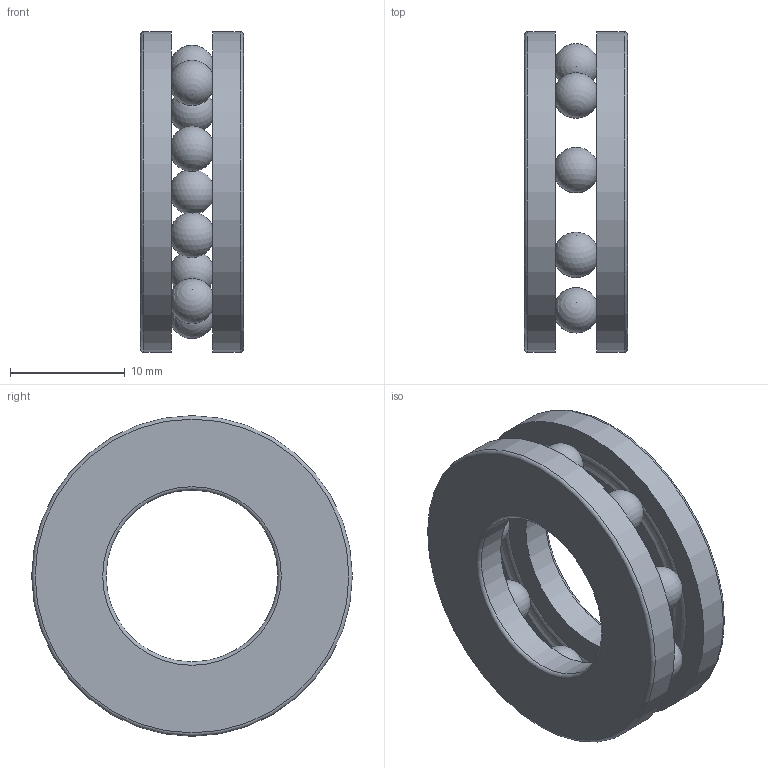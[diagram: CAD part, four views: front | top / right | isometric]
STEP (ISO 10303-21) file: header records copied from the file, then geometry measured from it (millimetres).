
FILE_DESCRIPTION(/* description */ ('롤링 베어링 - 플랫 뒷면이 있는 스러스트 볼 베어링'),/* implementation_level */ '2;1');
FILE_NAME(/* name */ '',/* time_stamp */ '2025-09-02T10:47:56+09:00',/* author */ ('jhkim'),/* organization */ (''),/* preprocessor_version */ 'ST-DEVELOPER v20.1',/* originating_system */ 'Autodesk Inventor 2026',/* authorisation */ '');
FILE_SCHEMA (('AUTOMOTIVE_DESIGN { 1 0 10303 214 3 1 1 }'));
Length unit declared in the file: millimetre
Products named in the file (1): 스러스트 볼 베어링 
51102
Bounding box: 9 x 28 x 28 mm (x, y, z)
Volume: 2564.8 mm3; surface area: 2860.8 mm2
Topology: 11 solids, 11 shells, 41 faces, 123 edges, 88 vertices
Faces by surface type: torus 22, sphere 9, plane 6, cylinder 4
Full cylindrical faces by diameter (mm): 15 x1, 16 x1, 28 x2
Entity records: 1739 total; most frequent: DIRECTION 344, CARTESIAN_POINT 298, ORIENTED_EDGE 264, AXIS2_PLACEMENT_3D 170, EDGE_CURVE 132, CIRCLE 128, VERTEX_POINT 124, EDGE_LOOP 56
